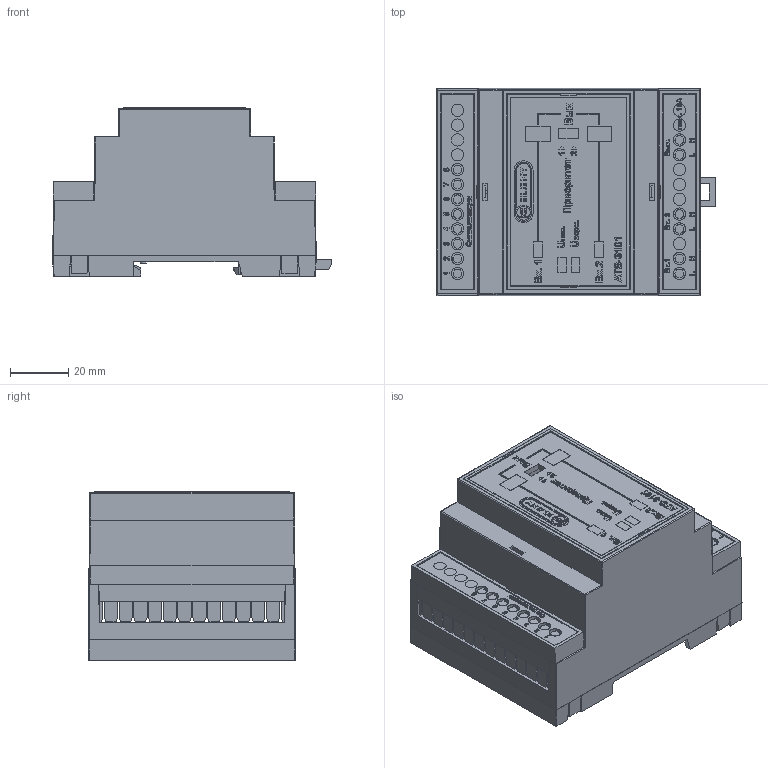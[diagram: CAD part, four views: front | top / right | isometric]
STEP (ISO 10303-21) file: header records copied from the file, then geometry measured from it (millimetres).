
FILE_DESCRIPTION(('STEP AP242'), '1');
FILE_NAME('栖闉罻', '', ('UNSPECIFIED'), ('UNSPECIFIED'), 'ASCON STEP Converter 1.6', 'ASCON Math Kernel', '');
FILE_SCHEMA(('AP242_MANAGED_MODEL_BASED_3D_ENGINEERING_MIM_LF { 1 0 10303 442 1 1 4 }'));
Length unit declared in the file: millimetre
Products named in the file (5): 4MG-ASSEMBLY
Assembly tree (4 placements, depth 2):
  (unnamed)
    4MG-ASSEMBLY
    (unnamed)
    (unnamed)
    (unnamed)
Bounding box: 95.36 x 71 x 57.7 mm (x, y, z)
Volume: 51532.7 mm3; surface area: 77542.1 mm2
Topology: 17 solids, 17 shells, 2739 faces, 7773 edges, 5148 vertices
Faces by surface type: plane 1728, extrusion 787, cylinder 199, cone 12, sphere 9, bspline 4
Full cylindrical faces by diameter (mm): 1.5 x4, 3.2 x4, 4.2 x24, 4.201 x8
Entity records: 114376 total; most frequent: CARTESIAN_POINT 23599, ORIENTED_EDGE 15434, DIRECTION 11254, EDGE_CURVE 7717, VECTOR 6334, LINE 5547, VERTEX_POINT 5146, EDGE_LOOP 3097
